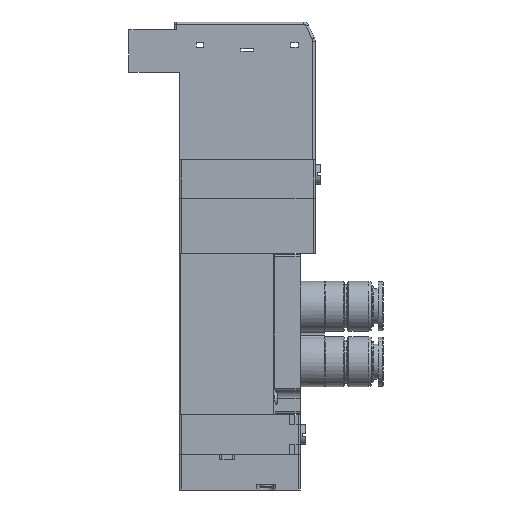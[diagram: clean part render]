
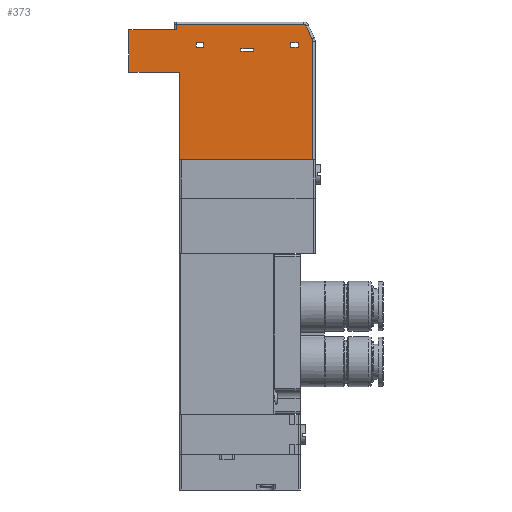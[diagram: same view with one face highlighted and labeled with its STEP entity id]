
A CAD part, left-side view. The second image highlights one B-rep face of the part: STEP entity #373.
In plain terms, the highlighted planar face has unit normal (-1, 0, 0).
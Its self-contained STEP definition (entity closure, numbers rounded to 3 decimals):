
#373=ADVANCED_FACE('',(#1383,#1384,#1385,#1386),#1382,.T.);
#1382=PLANE('',#4379);
#1383=FACE_OUTER_BOUND('',#4380,.T.);
#1384=FACE_BOUND('',#4381,.T.);
#1385=FACE_BOUND('',#4382,.T.);
#1386=FACE_BOUND('',#4383,.T.);
#4376=CARTESIAN_POINT('',(-5.,-30.15,-2.69));
#4377=DIRECTION('',(-1.,0.,0.));
#4378=DIRECTION('',(0.,0.,1.));
#4379=AXIS2_PLACEMENT_3D('',#4376,#4377,#4378);
#4380=EDGE_LOOP('',(#6653,#6654,#6655,#6656,#6657,#6658,#6659,#6660,#6661,#6662,#6663));
#4381=EDGE_LOOP('',(#6664,#6665,#6666,#6667));
#4382=EDGE_LOOP('',(#6668,#6669,#6670,#6671));
#4383=EDGE_LOOP('',(#6672,#6673,#6674,#6675));
#6653=ORIENTED_EDGE('',*,*,#8009,.T.);
#6654=ORIENTED_EDGE('',*,*,#8010,.F.);
#6655=ORIENTED_EDGE('',*,*,#8011,.F.);
#6656=ORIENTED_EDGE('',*,*,#8012,.F.);
#6657=ORIENTED_EDGE('',*,*,#8005,.F.);
#6658=ORIENTED_EDGE('',*,*,#8013,.F.);
#6659=ORIENTED_EDGE('',*,*,#8014,.T.);
#6660=ORIENTED_EDGE('',*,*,#8015,.T.);
#6661=ORIENTED_EDGE('',*,*,#8016,.T.);
#6662=ORIENTED_EDGE('',*,*,#8017,.T.);
#6663=ORIENTED_EDGE('',*,*,#8018,.T.);
#6664=ORIENTED_EDGE('',*,*,#8001,.T.);
#6665=ORIENTED_EDGE('',*,*,#8019,.F.);
#6666=ORIENTED_EDGE('',*,*,#8020,.F.);
#6667=ORIENTED_EDGE('',*,*,#8021,.F.);
#6668=ORIENTED_EDGE('',*,*,#8022,.T.);
#6669=ORIENTED_EDGE('',*,*,#7995,.T.);
#6670=ORIENTED_EDGE('',*,*,#7991,.T.);
#6671=ORIENTED_EDGE('',*,*,#7998,.T.);
#6672=ORIENTED_EDGE('',*,*,#8023,.F.);
#6673=ORIENTED_EDGE('',*,*,#8024,.F.);
#6674=ORIENTED_EDGE('',*,*,#8025,.F.);
#6675=ORIENTED_EDGE('',*,*,#8026,.F.);
#7991=EDGE_CURVE('',#9791,#9792,#9793,.T.);
#7995=EDGE_CURVE('',#9819,#9791,#9820,.T.);
#7998=EDGE_CURVE('',#9792,#9839,#9840,.T.);
#8001=EDGE_CURVE('',#9859,#9860,#9861,.T.);
#8005=EDGE_CURVE('',#9887,#9888,#9889,.T.);
#8009=EDGE_CURVE('',#9915,#9916,#9917,.T.);
#8010=EDGE_CURVE('',#9923,#9916,#9924,.T.);
#8011=EDGE_CURVE('',#9930,#9923,#9931,.T.);
#8012=EDGE_CURVE('',#9888,#9930,#9937,.T.);
#8013=EDGE_CURVE('',#9943,#9887,#9944,.T.);
#8014=EDGE_CURVE('',#9943,#9950,#9951,.T.);
#8015=EDGE_CURVE('',#9950,#9957,#9958,.T.);
#8016=EDGE_CURVE('',#9957,#9964,#9965,.T.);
#8017=EDGE_CURVE('',#9964,#9971,#9972,.T.);
#8018=EDGE_CURVE('',#9971,#9915,#9978,.T.);
#8019=EDGE_CURVE('',#9984,#9860,#9985,.T.);
#8020=EDGE_CURVE('',#9991,#9984,#9992,.T.);
#8021=EDGE_CURVE('',#9859,#9991,#9998,.T.);
#8022=EDGE_CURVE('',#9839,#9819,#10004,.T.);
#8023=EDGE_CURVE('',#10010,#10011,#10012,.T.);
#8024=EDGE_CURVE('',#10018,#10010,#10019,.T.);
#8025=EDGE_CURVE('',#10025,#10018,#10026,.T.);
#8026=EDGE_CURVE('',#10011,#10025,#10032,.T.);
#9791=VERTEX_POINT('',#14423);
#9792=VERTEX_POINT('',#14424);
#9793=LINE('',#14425,#14426);
#9819=VERTEX_POINT('',#14439);
#9820=LINE('',#14440,#14441);
#9839=VERTEX_POINT('',#14450);
#9840=LINE('',#14451,#14452);
#9859=VERTEX_POINT('',#14461);
#9860=VERTEX_POINT('',#14462);
#9861=LINE('',#14463,#14464);
#9887=VERTEX_POINT('',#14477);
#9888=VERTEX_POINT('',#14478);
#9889=LINE('',#14479,#14480);
#9915=VERTEX_POINT('',#14493);
#9916=VERTEX_POINT('',#14494);
#9917=LINE('',#14495,#14496);
#9923=VERTEX_POINT('',#14498);
#9924=LINE('',#14499,#14500);
#9930=VERTEX_POINT('',#14502);
#9931=LINE('',#14503,#14504);
#9937=LINE('',#14506,#14507);
#9943=VERTEX_POINT('',#14509);
#9944=LINE('',#14510,#14511);
#9950=VERTEX_POINT('',#14513);
#9951=LINE('',#14514,#14515);
#9957=VERTEX_POINT('',#14517);
#9958=CIRCLE('',#14521,1.5);
#9964=VERTEX_POINT('',#14522);
#9965=LINE('',#14523,#14524);
#9971=VERTEX_POINT('',#14526);
#9972=CIRCLE('',#14530,0.5);
#9978=LINE('',#14531,#14532);
#9984=VERTEX_POINT('',#14534);
#9985=LINE('',#14535,#14536);
#9991=VERTEX_POINT('',#14538);
#9992=LINE('',#14539,#14540);
#9998=LINE('',#14542,#14543);
#10004=LINE('',#14545,#14546);
#10010=VERTEX_POINT('',#14548);
#10011=VERTEX_POINT('',#14549);
#10012=LINE('',#14550,#14551);
#10018=VERTEX_POINT('',#14553);
#10019=LINE('',#14554,#14555);
#10025=VERTEX_POINT('',#14557);
#10026=LINE('',#14558,#14559);
#10032=LINE('',#14561,#14562);
#14423=CARTESIAN_POINT('',(-5.,-3.4,22.4));
#14424=CARTESIAN_POINT('',(-5.,-3.4,23.3));
#14425=CARTESIAN_POINT('',(-5.,-3.4,22.4));
#14426=VECTOR('',#14427,0.9);
#14427=DIRECTION('',(0.,0.,1.));
#14439=CARTESIAN_POINT('',(-5.,-4.8,22.4));
#14440=CARTESIAN_POINT('',(-5.,-4.8,22.4));
#14441=VECTOR('',#14442,1.4);
#14442=DIRECTION('',(0.,1.,0.));
#14450=CARTESIAN_POINT('',(-5.,-4.8,23.3));
#14451=CARTESIAN_POINT('',(-5.,-3.4,23.3));
#14452=VECTOR('',#14453,1.4);
#14453=DIRECTION('',(0.,-1.,0.));
#14461=CARTESIAN_POINT('',(-5.,-14.75,21.6));
#14462=CARTESIAN_POINT('',(-5.,-12.25,21.6));
#14463=CARTESIAN_POINT('',(-5.,-14.75,21.6));
#14464=VECTOR('',#14465,2.5);
#14465=DIRECTION('',(0.,1.,0.));
#14477=CARTESIAN_POINT('',(-5.,0.,0.));
#14478=CARTESIAN_POINT('',(-5.,0.,17.4));
#14479=CARTESIAN_POINT('',(-5.,0.,0.));
#14480=VECTOR('',#14481,17.4);
#14481=DIRECTION('',(0.,0.,1.));
#14493=CARTESIAN_POINT('',(-5.,0.5,26.9));
#14494=CARTESIAN_POINT('',(-5.,0.5,25.9));
#14495=CARTESIAN_POINT('',(-5.,0.5,26.9));
#14496=VECTOR('',#14497,1.);
#14497=DIRECTION('',(0.,0.,-1.));
#14498=CARTESIAN_POINT('',(-5.,10.,25.9));
#14499=CARTESIAN_POINT('',(-5.,10.,25.9));
#14500=VECTOR('',#14501,9.5);
#14501=DIRECTION('',(0.,-1.,0.));
#14502=CARTESIAN_POINT('',(-5.,10.,17.4));
#14503=CARTESIAN_POINT('',(-5.,10.,17.4));
#14504=VECTOR('',#14505,8.5);
#14505=DIRECTION('',(0.,0.,1.));
#14506=CARTESIAN_POINT('',(-5.,0.,17.4));
#14507=VECTOR('',#14508,10.);
#14508=DIRECTION('',(0.,1.,0.));
#14509=CARTESIAN_POINT('',(-5.,-26.5,0.));
#14510=CARTESIAN_POINT('',(-5.,-26.5,0.));
#14511=VECTOR('',#14512,26.5);
#14512=DIRECTION('',(0.,1.,0.));
#14513=CARTESIAN_POINT('',(-5.,-26.5,23.465));
#14514=CARTESIAN_POINT('',(-5.,-26.5,0.));
#14515=VECTOR('',#14516,23.465);
#14516=DIRECTION('',(0.,0.,1.));
#14517=CARTESIAN_POINT('',(-5.,-26.364,24.088));
#14518=CARTESIAN_POINT('',(-5.,-25.,23.465));
#14519=DIRECTION('',(-1.,0.,0.));
#14520=DIRECTION('',(0.,0.,-1.));
#14521=AXIS2_PLACEMENT_3D('',#14518,#14519,#14520);
#14522=CARTESIAN_POINT('',(-5.,-25.212,26.608));
#14523=CARTESIAN_POINT('',(-5.,-26.364,24.088));
#14524=VECTOR('',#14525,2.771);
#14525=DIRECTION('',(0.,0.416,0.909));
#14526=CARTESIAN_POINT('',(-5.,-24.758,26.9));
#14527=CARTESIAN_POINT('',(-5.,-24.758,26.4));
#14528=DIRECTION('',(-1.,0.,0.));
#14529=DIRECTION('',(0.,0.,-1.));
#14530=AXIS2_PLACEMENT_3D('',#14527,#14528,#14529);
#14531=CARTESIAN_POINT('',(-5.,-24.758,26.9));
#14532=VECTOR('',#14533,25.258);
#14533=DIRECTION('',(0.,1.,0.));
#14534=CARTESIAN_POINT('',(-5.,-12.25,22.1));
#14535=CARTESIAN_POINT('',(-5.,-12.25,22.1));
#14536=VECTOR('',#14537,0.5);
#14537=DIRECTION('',(0.,0.,-1.));
#14538=CARTESIAN_POINT('',(-5.,-14.75,22.1));
#14539=CARTESIAN_POINT('',(-5.,-14.75,22.1));
#14540=VECTOR('',#14541,2.5);
#14541=DIRECTION('',(0.,1.,0.));
#14542=CARTESIAN_POINT('',(-5.,-14.75,21.6));
#14543=VECTOR('',#14544,0.5);
#14544=DIRECTION('',(0.,0.,1.));
#14545=CARTESIAN_POINT('',(-5.,-4.8,23.3));
#14546=VECTOR('',#14547,0.9);
#14547=DIRECTION('',(0.,0.,-1.));
#14548=CARTESIAN_POINT('',(-5.,-23.6,22.4));
#14549=CARTESIAN_POINT('',(-5.,-23.6,23.3));
#14550=CARTESIAN_POINT('',(-5.,-23.6,22.4));
#14551=VECTOR('',#14552,0.9);
#14552=DIRECTION('',(0.,0.,1.));
#14553=CARTESIAN_POINT('',(-5.,-22.2,22.4));
#14554=CARTESIAN_POINT('',(-5.,-22.2,22.4));
#14555=VECTOR('',#14556,1.4);
#14556=DIRECTION('',(0.,-1.,0.));
#14557=CARTESIAN_POINT('',(-5.,-22.2,23.3));
#14558=CARTESIAN_POINT('',(-5.,-22.2,23.3));
#14559=VECTOR('',#14560,0.9);
#14560=DIRECTION('',(0.,0.,-1.));
#14561=CARTESIAN_POINT('',(-5.,-23.6,23.3));
#14562=VECTOR('',#14563,1.4);
#14563=DIRECTION('',(0.,1.,0.));
